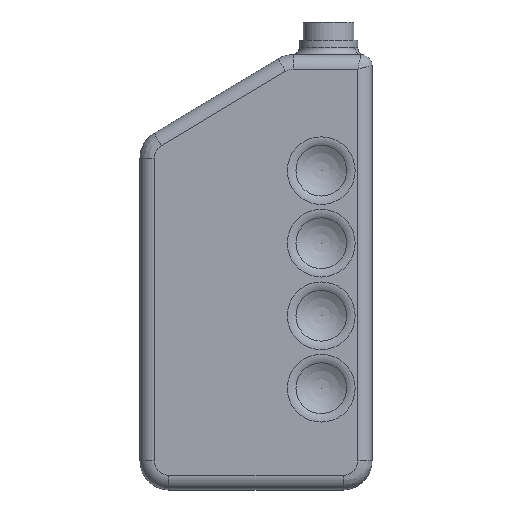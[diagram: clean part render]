
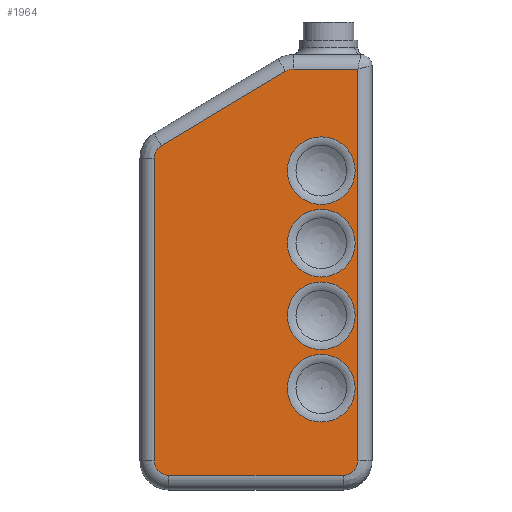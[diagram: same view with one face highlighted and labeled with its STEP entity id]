
A CAD part, top view. The second image highlights one B-rep face of the part: STEP entity #1964.
In plain terms, the highlighted planar face has unit normal (0, 0, 1).
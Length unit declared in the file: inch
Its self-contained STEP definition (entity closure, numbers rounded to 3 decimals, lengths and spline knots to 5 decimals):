
#1833=CARTESIAN_POINT('',(1.00435,1.49909,1.0));
#1834=VERTEX_POINT('',#1833);
#1835=CARTESIAN_POINT('',(1.00435,2.08205,1.0));
#1836=DIRECTION('',(0.0,0.0,1.0));
#1837=DIRECTION('',(0.0,1.0,0.0));
#1838=AXIS2_PLACEMENT_3D('',#1835,#1836,#1837);
#1839=CIRCLE('',#1838,0.58296);
#1840=EDGE_CURVE('',#1834,#1834,#1839,.T.);
#1845=CARTESIAN_POINT('',(0.00202,0.09803,1.0));
#1846=DIRECTION('',(0.0,0.0,1.0));
#1847=DIRECTION('',(1.0,0.0,0.0));
#1848=AXIS2_PLACEMENT_3D('',#1845,#1846,#1847);
#1849=PLANE('',#1848);
#1850=CARTESIAN_POINT('',(1.62935,3.83205,1.0));
#1851=VERTEX_POINT('',#1850);
#1852=CARTESIAN_POINT('',(1.62935,-2.91795,1.0));
#1853=VERTEX_POINT('',#1852);
#1854=CARTESIAN_POINT('',(1.62935,3.83205,1.0));
#1855=DIRECTION('',(0.0,-1.0,0.0));
#1856=VECTOR('',#1855,6.75);
#1857=LINE('',#1854,#1856);
#1858=EDGE_CURVE('',#1851,#1853,#1857,.T.);
#1859=ORIENTED_EDGE('',*,*,#1858,.F.);
#1860=CARTESIAN_POINT('',(0.51784,3.83205,1.0));
#1861=VERTEX_POINT('',#1860);
#1862=CARTESIAN_POINT('',(0.51784,3.83205,1.0));
#1863=DIRECTION('',(1.0,0.0,0.0));
#1864=VECTOR('',#1863,1.11151);
#1865=LINE('',#1862,#1864);
#1866=EDGE_CURVE('',#1861,#1851,#1865,.T.);
#1867=ORIENTED_EDGE('',*,*,#1866,.F.);
#1868=CARTESIAN_POINT('',(0.38921,3.79642,1.0));
#1869=VERTEX_POINT('',#1868);
#1870=CARTESIAN_POINT('',(0.51784,3.58205,1.0));
#1871=DIRECTION('',(0.0,0.0,-1.0));
#1872=DIRECTION('',(-0.267,0.964,0.0));
#1873=AXIS2_PLACEMENT_3D('',#1870,#1871,#1872);
#1874=CIRCLE('',#1873,0.25);
#1875=EDGE_CURVE('',#1869,#1861,#1874,.T.);
#1876=ORIENTED_EDGE('',*,*,#1875,.F.);
#1877=CARTESIAN_POINT('',(-1.74928,2.51333,1.0));
#1878=VERTEX_POINT('',#1877);
#1879=CARTESIAN_POINT('',(-1.74928,2.51333,1.0));
#1880=DIRECTION('',(0.857,0.514,0.0));
#1881=VECTOR('',#1880,2.49389);
#1882=LINE('',#1879,#1881);
#1883=EDGE_CURVE('',#1878,#1869,#1882,.T.);
#1884=ORIENTED_EDGE('',*,*,#1883,.F.);
#1885=CARTESIAN_POINT('',(-1.87065,2.29895,1.0));
#1886=VERTEX_POINT('',#1885);
#1887=CARTESIAN_POINT('',(-1.62065,2.29895,1.0));
#1888=DIRECTION('',(0.0,0.0,-1.));
#1889=DIRECTION('',(-0.87,0.493,0.0));
#1890=AXIS2_PLACEMENT_3D('',#1887,#1888,#1889);
#1891=CIRCLE('',#1890,0.25);
#1892=EDGE_CURVE('',#1886,#1878,#1891,.T.);
#1893=ORIENTED_EDGE('',*,*,#1892,.F.);
#1894=CARTESIAN_POINT('',(-1.87065,-2.91795,1.0));
#1895=VERTEX_POINT('',#1894);
#1896=CARTESIAN_POINT('',(-1.87065,-2.91795,1.0));
#1897=DIRECTION('',(0.0,1.0,0.0));
#1898=VECTOR('',#1897,5.2169);
#1899=LINE('',#1896,#1898);
#1900=EDGE_CURVE('',#1895,#1886,#1899,.T.);
#1901=ORIENTED_EDGE('',*,*,#1900,.F.);
#1902=CARTESIAN_POINT('',(-1.62065,-3.16795,1.0));
#1903=VERTEX_POINT('',#1902);
#1904=CARTESIAN_POINT('',(-1.62065,-2.91795,1.0));
#1905=DIRECTION('',(0.0,0.0,-1.));
#1906=DIRECTION('',(-0.707,-0.707,0.0));
#1907=AXIS2_PLACEMENT_3D('',#1904,#1905,#1906);
#1908=CIRCLE('',#1907,0.25);
#1909=EDGE_CURVE('',#1903,#1895,#1908,.T.);
#1910=ORIENTED_EDGE('',*,*,#1909,.F.);
#1911=CARTESIAN_POINT('',(1.37935,-3.16795,1.0));
#1912=VERTEX_POINT('',#1911);
#1913=CARTESIAN_POINT('',(1.37935,-3.16795,1.0));
#1914=DIRECTION('',(-1.0,0.0,0.0));
#1915=VECTOR('',#1914,3.0);
#1916=LINE('',#1913,#1915);
#1917=EDGE_CURVE('',#1912,#1903,#1916,.T.);
#1918=ORIENTED_EDGE('',*,*,#1917,.F.);
#1919=CARTESIAN_POINT('',(1.37935,-2.91795,1.0));
#1920=DIRECTION('',(0.0,0.0,-1.));
#1921=DIRECTION('',(0.707,-0.707,0.0));
#1922=AXIS2_PLACEMENT_3D('',#1919,#1920,#1921);
#1923=CIRCLE('',#1922,0.25);
#1924=EDGE_CURVE('',#1853,#1912,#1923,.T.);
#1925=ORIENTED_EDGE('',*,*,#1924,.F.);
#1926=EDGE_LOOP('',(#1859,#1867,#1876,#1884,#1893,#1901,#1910,#1918,#1925));
#1927=FACE_OUTER_BOUND('',#1926,.T.);
#1928=CARTESIAN_POINT('',(1.00435,0.24909,1.0));
#1929=VERTEX_POINT('',#1928);
#1930=CARTESIAN_POINT('',(1.00435,0.83205,1.0));
#1931=DIRECTION('',(0.0,0.0,1.0));
#1932=DIRECTION('',(0.0,1.0,0.0));
#1933=AXIS2_PLACEMENT_3D('',#1930,#1931,#1932);
#1934=CIRCLE('',#1933,0.58296);
#1935=EDGE_CURVE('',#1929,#1929,#1934,.T.);
#1936=ORIENTED_EDGE('',*,*,#1935,.F.);
#1937=EDGE_LOOP('',(#1936));
#1938=FACE_BOUND('',#1937,.T.);
#1939=CARTESIAN_POINT('',(1.00435,-2.25091,1.0));
#1940=VERTEX_POINT('',#1939);
#1941=CARTESIAN_POINT('',(1.00435,-1.66795,1.0));
#1942=DIRECTION('',(0.0,0.0,1.0));
#1943=DIRECTION('',(0.0,1.0,0.0));
#1944=AXIS2_PLACEMENT_3D('',#1941,#1942,#1943);
#1945=CIRCLE('',#1944,0.58296);
#1946=EDGE_CURVE('',#1940,#1940,#1945,.T.);
#1947=ORIENTED_EDGE('',*,*,#1946,.F.);
#1948=EDGE_LOOP('',(#1947));
#1949=FACE_BOUND('',#1948,.T.);
#1950=CARTESIAN_POINT('',(1.00435,-1.00091,1.0));
#1951=VERTEX_POINT('',#1950);
#1952=CARTESIAN_POINT('',(1.00435,-0.41795,1.0));
#1953=DIRECTION('',(0.0,0.0,1.0));
#1954=DIRECTION('',(0.0,1.0,0.0));
#1955=AXIS2_PLACEMENT_3D('',#1952,#1953,#1954);
#1956=CIRCLE('',#1955,0.58296);
#1957=EDGE_CURVE('',#1951,#1951,#1956,.T.);
#1958=ORIENTED_EDGE('',*,*,#1957,.F.);
#1959=EDGE_LOOP('',(#1958));
#1960=FACE_BOUND('',#1959,.T.);
#1961=ORIENTED_EDGE('',*,*,#1840,.F.);
#1962=EDGE_LOOP('',(#1961));
#1963=FACE_BOUND('',#1962,.T.);
#1964=ADVANCED_FACE('',(#1927,#1938,#1949,#1960,#1963),#1849,.T.);
